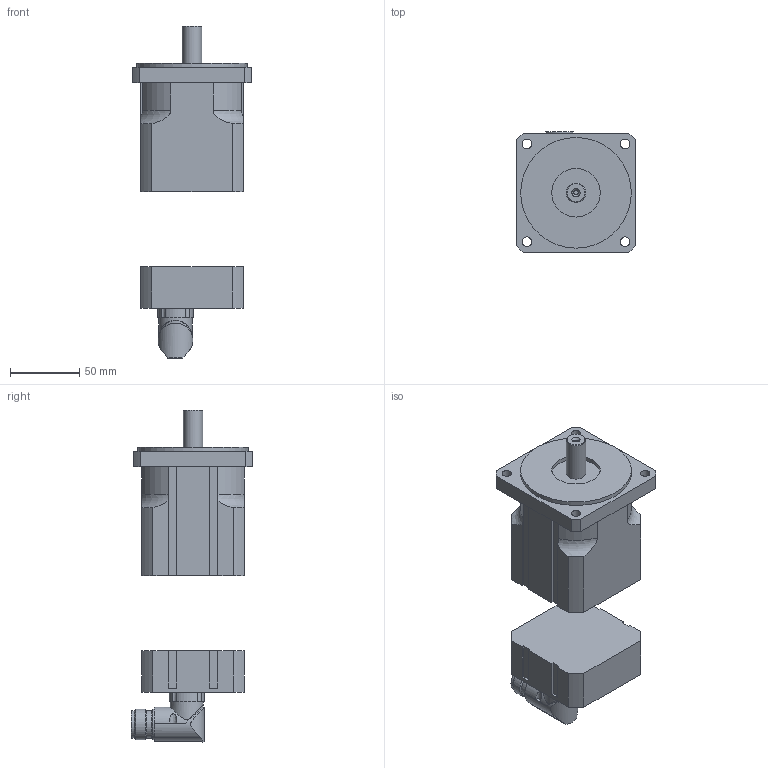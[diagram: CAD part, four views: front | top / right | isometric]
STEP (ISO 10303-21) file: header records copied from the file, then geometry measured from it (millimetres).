
FILE_DESCRIPTION(/* description */ ('Alibre Inc.'),/* implementation_level */ '2;1');
FILE_NAME(/* name */ 'export0',/* time_stamp */ '2010-12-14T09:03:38+01:00',/* author */ (''),/* organization */ (''),/* preprocessor_version */ 'ST-DEVELOPER v12',/* originating_system */ 'Alibre',/* authorisation */ '');
FILE_SCHEMA (('ALIBRE_SCHEMA','CONFIG_CONTROL_DESIGN'));
Length unit declared in the file: millimetre
Products named in the file (4): ID_1
Bounding box: 86 x 87.51 x 240 mm (x, y, z)
Volume: 683848.3 mm3; surface area: 73803.2 mm2
Topology: 3 solids, 3 shells, 145 faces, 378 edges, 249 vertices
Faces by surface type: plane 63, cylinder 48, bspline 26, cone 4, torus 4
Full cylindrical faces by diameter (mm): 2.7 x4, 14 x1, 20 x3, 22 x2, 24 x1, 35 x1, 80 x1
Entity records: 14228 total; most frequent: CARTESIAN_POINT 4145, ORIENTED_EDGE 1528, DIRECTION 1512, EDGE_CURVE 764, AXIS2_PLACEMENT_3D 573, VERTEX_POINT 540, VECTOR 500, LINE 458
